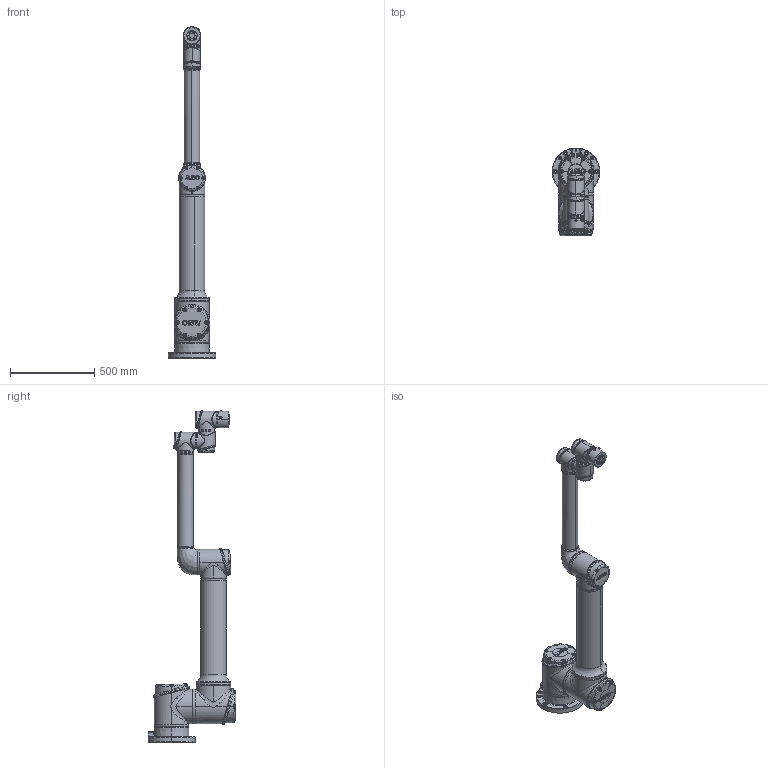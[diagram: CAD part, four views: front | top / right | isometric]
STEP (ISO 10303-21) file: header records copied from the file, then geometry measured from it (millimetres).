
FILE_DESCRIPTION (( 'STEP AP214' ), '1' );
FILE_NAME ('iS25-耀倰-湍薯諷.STEP', '2025-11-05T00:44:12', ( '' ), ( '' ), 'SwSTEP 2.0', 'SolidWorks 2024', '' );
FILE_SCHEMA (( 'AUTOMOTIVE_DESIGN' ));
Length unit declared in the file: millimetre
Products named in the file (8): iS25-大臂; iS25-底座-简化1; M20关节模块; M20模块; iS25-模型-带力控; M45P-模块; iS20-小臂; C1-B1098D-简化
Assembly tree (8 placements, depth 3):
  iS25-模型-带力控
    iS20-小臂
    iS25-大臂
    M45P-模块
    iS25-底座-简化1
    M20模块  x2
      M20关节模块
    C1-B1098D-简化
Bounding box: 282.39 x 520.45 x 1967.5 mm (x, y, z)
Volume: 48431097.2 mm3; surface area: 1714376.9 mm2
Topology: 7 solids, 32 shells, 3076 faces, 7581 edges, 4702 vertices
Faces by surface type: bspline 1001, plane 855, cylinder 647, cone 272, torus 263, sphere 38
Entity records: 710026 total; most frequent: CARTESIAN_POINT 623558, ORIENTED_EDGE 13768, DIRECTION 9574, EDGE_CURVE 6884, VERTEX_POINT 4283, AXIS2_PLACEMENT_3D 3922, EDGE_LOOP 3017, B_SPLINE_CURVE_WITH_KNOTS 2976
